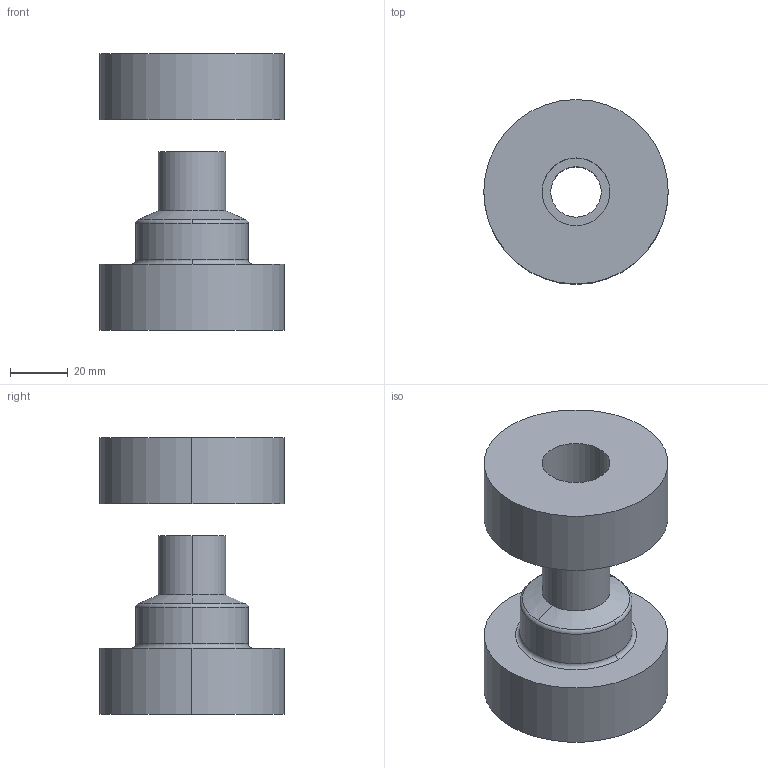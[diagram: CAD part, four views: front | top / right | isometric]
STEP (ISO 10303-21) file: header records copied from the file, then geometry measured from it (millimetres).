
FILE_DESCRIPTION(('STEP AP214'),'1');
FILE_NAME('C:/Transfer Dokumente/6003x 160226.stp','2026-02-16T11:54:10',(' '),(' '),'Spatial InterOp 3D',' ',' ');
FILE_SCHEMA(('automotive_design'));
Length unit declared in the file: millimetre
Products named in the file (2): 1; 2
Bounding box: 64 x 64 x 96.04 mm (x, y, z)
Volume: 152683.3 mm3; surface area: 29195.1 mm2
Topology: 2 solids, 2 shells, 23 faces, 53 edges, 35 vertices
Faces by surface type: cylinder 12, plane 5, torus 4, cone 2
Entity records: 716 total; most frequent: DIRECTION 142, CARTESIAN_POINT 113, ORIENTED_EDGE 106, AXIS2_PLACEMENT_3D 64, EDGE_CURVE 53, CIRCLE 39, VERTEX_POINT 35, EDGE_LOOP 28
